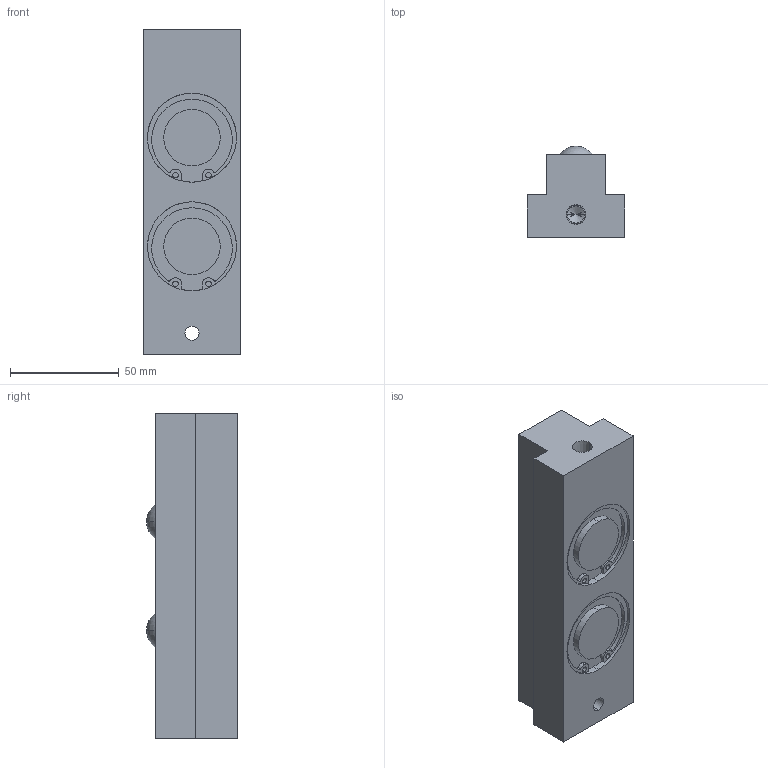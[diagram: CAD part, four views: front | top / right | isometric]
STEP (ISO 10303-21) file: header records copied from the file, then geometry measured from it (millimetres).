
FILE_DESCRIPTION (( 'STEP AP203' ), '1' );
FILE_NAME ('PVL50T-2.STEP', '2015-12-24T08:56:23', ( '' ), ( '' ), 'SwSTEP 2.0', 'SolidWorks 2013', '' );
FILE_SCHEMA (( 'CONFIG_CONTROL_DESIGN' ));
Length unit declared in the file: millimetre
Products named in the file (1): PVL50T-2
Bounding box: 45 x 42 x 150 mm (x, y, z)
Volume: 202080.8 mm3; surface area: 31873.4 mm2
Topology: 1 solids, 1 shells, 84 faces, 198 edges, 131 vertices
Faces by surface type: cylinder 46, plane 30, sphere 4, cone 4
Entity records: 2537 total; most frequent: DIRECTION 474, CARTESIAN_POINT 412, ORIENTED_EDGE 392, EDGE_CURVE 196, AXIS2_PLACEMENT_3D 193, VERTEX_POINT 131, CIRCLE 108, EDGE_LOOP 103
